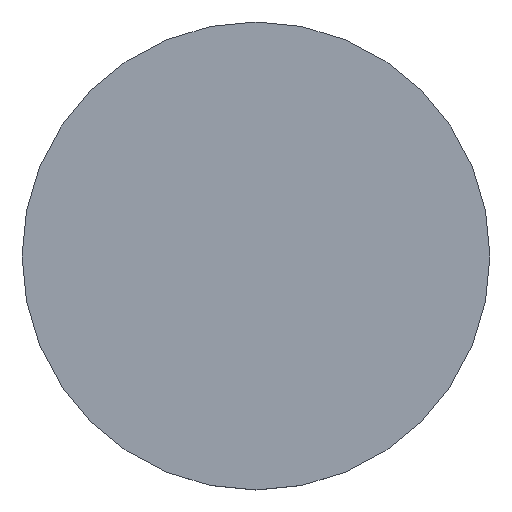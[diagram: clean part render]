
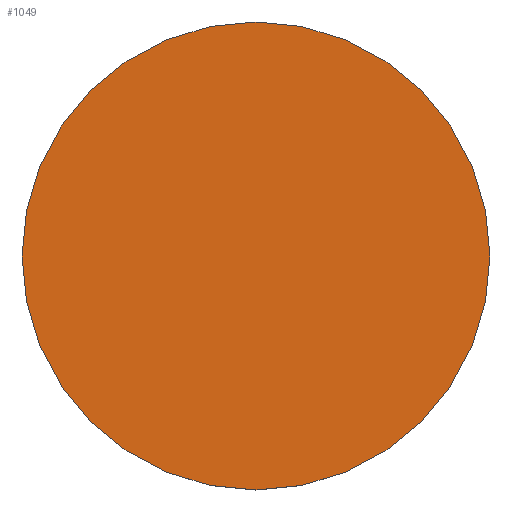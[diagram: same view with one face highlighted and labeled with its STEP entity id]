
A CAD part, top view. The second image highlights one B-rep face of the part: STEP entity #1049.
In plain terms, the highlighted planar face has unit normal (0, 0, 1).
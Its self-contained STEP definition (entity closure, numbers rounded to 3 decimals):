
#24 = VERTEX_POINT('',#25);
#25 = CARTESIAN_POINT('',(1.,0.,0.035));
#31 = EDGE_CURVE('',#24,#32,#34,.T.);
#32 = VERTEX_POINT('',#33);
#33 = CARTESIAN_POINT('',(0.981,0.195,0.035));
#34 = LINE('',#35,#36);
#35 = CARTESIAN_POINT('',(1.,0.,0.035));
#36 = VECTOR('',#37,1.);
#37 = DIRECTION('',(-0.098,0.995,0.));
#62 = EDGE_CURVE('',#32,#63,#65,.T.);
#63 = VERTEX_POINT('',#64);
#64 = CARTESIAN_POINT('',(0.924,0.383,0.035));
#65 = LINE('',#66,#67);
#66 = CARTESIAN_POINT('',(0.981,0.195,0.035));
#67 = VECTOR('',#68,1.);
#68 = DIRECTION('',(-0.29,0.957,0.));
#93 = EDGE_CURVE('',#63,#94,#96,.T.);
#94 = VERTEX_POINT('',#95);
#95 = CARTESIAN_POINT('',(0.831,0.556,0.035));
#96 = LINE('',#97,#98);
#97 = CARTESIAN_POINT('',(0.924,0.383,0.035));
#98 = VECTOR('',#99,1.);
#99 = DIRECTION('',(-0.471,0.882,0.));
#124 = EDGE_CURVE('',#94,#125,#127,.T.);
#125 = VERTEX_POINT('',#126);
#126 = CARTESIAN_POINT('',(0.707,0.707,0.035));
#127 = LINE('',#128,#129);
#128 = CARTESIAN_POINT('',(0.831,0.556,0.035));
#129 = VECTOR('',#130,1.);
#130 = DIRECTION('',(-0.634,0.773,0.));
#155 = EDGE_CURVE('',#125,#156,#158,.T.);
#156 = VERTEX_POINT('',#157);
#157 = CARTESIAN_POINT('',(0.556,0.831,0.035));
#158 = LINE('',#159,#160);
#159 = CARTESIAN_POINT('',(0.707,0.707,0.035));
#160 = VECTOR('',#161,1.);
#161 = DIRECTION('',(-0.773,0.634,0.));
#186 = EDGE_CURVE('',#156,#187,#189,.T.);
#187 = VERTEX_POINT('',#188);
#188 = CARTESIAN_POINT('',(0.383,0.924,0.035));
#189 = LINE('',#190,#191);
#190 = CARTESIAN_POINT('',(0.556,0.831,0.035));
#191 = VECTOR('',#192,1.);
#192 = DIRECTION('',(-0.882,0.471,0.));
#217 = EDGE_CURVE('',#187,#218,#220,.T.);
#218 = VERTEX_POINT('',#219);
#219 = CARTESIAN_POINT('',(0.195,0.981,0.035));
#220 = LINE('',#221,#222);
#221 = CARTESIAN_POINT('',(0.383,0.924,0.035));
#222 = VECTOR('',#223,1.);
#223 = DIRECTION('',(-0.957,0.29,0.));
#248 = EDGE_CURVE('',#218,#249,#251,.T.);
#249 = VERTEX_POINT('',#250);
#250 = CARTESIAN_POINT('',(0.,1.,0.035));
#251 = LINE('',#252,#253);
#252 = CARTESIAN_POINT('',(0.195,0.981,0.035));
#253 = VECTOR('',#254,1.);
#254 = DIRECTION('',(-0.995,0.098,0.));
#279 = EDGE_CURVE('',#249,#280,#282,.T.);
#280 = VERTEX_POINT('',#281);
#281 = CARTESIAN_POINT('',(-0.195,0.981,0.035));
#282 = LINE('',#283,#284);
#283 = CARTESIAN_POINT('',(0.,1.,0.035));
#284 = VECTOR('',#285,1.);
#285 = DIRECTION('',(-0.995,-0.098,0.));
#310 = EDGE_CURVE('',#280,#311,#313,.T.);
#311 = VERTEX_POINT('',#312);
#312 = CARTESIAN_POINT('',(-0.383,0.924,0.035));
#313 = LINE('',#314,#315);
#314 = CARTESIAN_POINT('',(-0.195,0.981,0.035));
#315 = VECTOR('',#316,1.);
#316 = DIRECTION('',(-0.957,-0.29,0.));
#341 = EDGE_CURVE('',#311,#342,#344,.T.);
#342 = VERTEX_POINT('',#343);
#343 = CARTESIAN_POINT('',(-0.556,0.831,0.035));
#344 = LINE('',#345,#346);
#345 = CARTESIAN_POINT('',(-0.383,0.924,0.035));
#346 = VECTOR('',#347,1.);
#347 = DIRECTION('',(-0.882,-0.471,0.));
#372 = EDGE_CURVE('',#342,#373,#375,.T.);
#373 = VERTEX_POINT('',#374);
#374 = CARTESIAN_POINT('',(-0.707,0.707,0.035));
#375 = LINE('',#376,#377);
#376 = CARTESIAN_POINT('',(-0.556,0.831,0.035));
#377 = VECTOR('',#378,1.);
#378 = DIRECTION('',(-0.773,-0.634,0.));
#403 = EDGE_CURVE('',#373,#404,#406,.T.);
#404 = VERTEX_POINT('',#405);
#405 = CARTESIAN_POINT('',(-0.831,0.556,0.035));
#406 = LINE('',#407,#408);
#407 = CARTESIAN_POINT('',(-0.707,0.707,0.035));
#408 = VECTOR('',#409,1.);
#409 = DIRECTION('',(-0.634,-0.773,0.));
#434 = EDGE_CURVE('',#404,#435,#437,.T.);
#435 = VERTEX_POINT('',#436);
#436 = CARTESIAN_POINT('',(-0.924,0.383,0.035));
#437 = LINE('',#438,#439);
#438 = CARTESIAN_POINT('',(-0.831,0.556,0.035));
#439 = VECTOR('',#440,1.);
#440 = DIRECTION('',(-0.471,-0.882,0.));
#465 = EDGE_CURVE('',#435,#466,#468,.T.);
#466 = VERTEX_POINT('',#467);
#467 = CARTESIAN_POINT('',(-0.981,0.195,0.035));
#468 = LINE('',#469,#470);
#469 = CARTESIAN_POINT('',(-0.924,0.383,0.035));
#470 = VECTOR('',#471,1.);
#471 = DIRECTION('',(-0.29,-0.957,0.));
#496 = EDGE_CURVE('',#466,#497,#499,.T.);
#497 = VERTEX_POINT('',#498);
#498 = CARTESIAN_POINT('',(-1.,0.,0.035));
#499 = LINE('',#500,#501);
#500 = CARTESIAN_POINT('',(-0.981,0.195,0.035));
#501 = VECTOR('',#502,1.);
#502 = DIRECTION('',(-0.098,-0.995,0.));
#527 = EDGE_CURVE('',#497,#528,#530,.T.);
#528 = VERTEX_POINT('',#529);
#529 = CARTESIAN_POINT('',(-0.981,-0.195,0.035));
#530 = LINE('',#531,#532);
#531 = CARTESIAN_POINT('',(-1.,0.,0.035));
#532 = VECTOR('',#533,1.);
#533 = DIRECTION('',(0.098,-0.995,0.));
#558 = EDGE_CURVE('',#528,#559,#561,.T.);
#559 = VERTEX_POINT('',#560);
#560 = CARTESIAN_POINT('',(-0.924,-0.383,0.035));
#561 = LINE('',#562,#563);
#562 = CARTESIAN_POINT('',(-0.981,-0.195,0.035));
#563 = VECTOR('',#564,1.);
#564 = DIRECTION('',(0.29,-0.957,0.));
#589 = EDGE_CURVE('',#559,#590,#592,.T.);
#590 = VERTEX_POINT('',#591);
#591 = CARTESIAN_POINT('',(-0.831,-0.556,0.035));
#592 = LINE('',#593,#594);
#593 = CARTESIAN_POINT('',(-0.924,-0.383,0.035));
#594 = VECTOR('',#595,1.);
#595 = DIRECTION('',(0.471,-0.882,0.));
#620 = EDGE_CURVE('',#590,#621,#623,.T.);
#621 = VERTEX_POINT('',#622);
#622 = CARTESIAN_POINT('',(-0.707,-0.707,0.035));
#623 = LINE('',#624,#625);
#624 = CARTESIAN_POINT('',(-0.831,-0.556,0.035));
#625 = VECTOR('',#626,1.);
#626 = DIRECTION('',(0.634,-0.773,0.));
#651 = EDGE_CURVE('',#621,#652,#654,.T.);
#652 = VERTEX_POINT('',#653);
#653 = CARTESIAN_POINT('',(-0.556,-0.831,0.035));
#654 = LINE('',#655,#656);
#655 = CARTESIAN_POINT('',(-0.707,-0.707,0.035));
#656 = VECTOR('',#657,1.);
#657 = DIRECTION('',(0.773,-0.634,0.));
#682 = EDGE_CURVE('',#652,#683,#685,.T.);
#683 = VERTEX_POINT('',#684);
#684 = CARTESIAN_POINT('',(-0.383,-0.924,0.035));
#685 = LINE('',#686,#687);
#686 = CARTESIAN_POINT('',(-0.556,-0.831,0.035));
#687 = VECTOR('',#688,1.);
#688 = DIRECTION('',(0.882,-0.471,0.));
#713 = EDGE_CURVE('',#683,#714,#716,.T.);
#714 = VERTEX_POINT('',#715);
#715 = CARTESIAN_POINT('',(-0.195,-0.981,0.035));
#716 = LINE('',#717,#718);
#717 = CARTESIAN_POINT('',(-0.383,-0.924,0.035));
#718 = VECTOR('',#719,1.);
#719 = DIRECTION('',(0.957,-0.29,0.));
#744 = EDGE_CURVE('',#714,#745,#747,.T.);
#745 = VERTEX_POINT('',#746);
#746 = CARTESIAN_POINT('',(0.,-1.,0.035));
#747 = LINE('',#748,#749);
#748 = CARTESIAN_POINT('',(-0.195,-0.981,0.035));
#749 = VECTOR('',#750,1.);
#750 = DIRECTION('',(0.995,-0.098,0.));
#775 = EDGE_CURVE('',#745,#776,#778,.T.);
#776 = VERTEX_POINT('',#777);
#777 = CARTESIAN_POINT('',(0.195,-0.981,0.035));
#778 = LINE('',#779,#780);
#779 = CARTESIAN_POINT('',(0.,-1.,0.035));
#780 = VECTOR('',#781,1.);
#781 = DIRECTION('',(0.995,0.098,0.));
#806 = EDGE_CURVE('',#776,#807,#809,.T.);
#807 = VERTEX_POINT('',#808);
#808 = CARTESIAN_POINT('',(0.383,-0.924,0.035));
#809 = LINE('',#810,#811);
#810 = CARTESIAN_POINT('',(0.195,-0.981,0.035));
#811 = VECTOR('',#812,1.);
#812 = DIRECTION('',(0.957,0.29,0.));
#837 = EDGE_CURVE('',#807,#838,#840,.T.);
#838 = VERTEX_POINT('',#839);
#839 = CARTESIAN_POINT('',(0.556,-0.831,0.035));
#840 = LINE('',#841,#842);
#841 = CARTESIAN_POINT('',(0.383,-0.924,0.035));
#842 = VECTOR('',#843,1.);
#843 = DIRECTION('',(0.882,0.471,0.));
#868 = EDGE_CURVE('',#838,#869,#871,.T.);
#869 = VERTEX_POINT('',#870);
#870 = CARTESIAN_POINT('',(0.707,-0.707,0.035));
#871 = LINE('',#872,#873);
#872 = CARTESIAN_POINT('',(0.556,-0.831,0.035));
#873 = VECTOR('',#874,1.);
#874 = DIRECTION('',(0.773,0.634,0.));
#899 = EDGE_CURVE('',#869,#900,#902,.T.);
#900 = VERTEX_POINT('',#901);
#901 = CARTESIAN_POINT('',(0.831,-0.556,0.035));
#902 = LINE('',#903,#904);
#903 = CARTESIAN_POINT('',(0.707,-0.707,0.035));
#904 = VECTOR('',#905,1.);
#905 = DIRECTION('',(0.634,0.773,0.));
#930 = EDGE_CURVE('',#900,#931,#933,.T.);
#931 = VERTEX_POINT('',#932);
#932 = CARTESIAN_POINT('',(0.924,-0.383,0.035));
#933 = LINE('',#934,#935);
#934 = CARTESIAN_POINT('',(0.831,-0.556,0.035));
#935 = VECTOR('',#936,1.);
#936 = DIRECTION('',(0.471,0.882,0.));
#961 = EDGE_CURVE('',#931,#962,#964,.T.);
#962 = VERTEX_POINT('',#963);
#963 = CARTESIAN_POINT('',(0.981,-0.195,0.035));
#964 = LINE('',#965,#966);
#965 = CARTESIAN_POINT('',(0.924,-0.383,0.035));
#966 = VECTOR('',#967,1.);
#967 = DIRECTION('',(0.29,0.957,0.));
#992 = EDGE_CURVE('',#962,#24,#993,.T.);
#993 = LINE('',#994,#995);
#994 = CARTESIAN_POINT('',(0.981,-0.195,0.035));
#995 = VECTOR('',#996,1.);
#996 = DIRECTION('',(0.098,0.995,0.));
#1049 = ADVANCED_FACE('',(#1050),#1084,.T.);
#1050 = FACE_BOUND('',#1051,.T.);
#1051 = EDGE_LOOP('',(#1052,#1053,#1054,#1055,#1056,#1057,#1058,#1059,
    #1060,#1061,#1062,#1063,#1064,#1065,#1066,#1067,#1068,#1069,#1070,
    #1071,#1072,#1073,#1074,#1075,#1076,#1077,#1078,#1079,#1080,#1081,
    #1082,#1083));
#1052 = ORIENTED_EDGE('',*,*,#31,.T.);
#1053 = ORIENTED_EDGE('',*,*,#62,.T.);
#1054 = ORIENTED_EDGE('',*,*,#93,.T.);
#1055 = ORIENTED_EDGE('',*,*,#124,.T.);
#1056 = ORIENTED_EDGE('',*,*,#155,.T.);
#1057 = ORIENTED_EDGE('',*,*,#186,.T.);
#1058 = ORIENTED_EDGE('',*,*,#217,.T.);
#1059 = ORIENTED_EDGE('',*,*,#248,.T.);
#1060 = ORIENTED_EDGE('',*,*,#279,.T.);
#1061 = ORIENTED_EDGE('',*,*,#310,.T.);
#1062 = ORIENTED_EDGE('',*,*,#341,.T.);
#1063 = ORIENTED_EDGE('',*,*,#372,.T.);
#1064 = ORIENTED_EDGE('',*,*,#403,.T.);
#1065 = ORIENTED_EDGE('',*,*,#434,.T.);
#1066 = ORIENTED_EDGE('',*,*,#465,.T.);
#1067 = ORIENTED_EDGE('',*,*,#496,.T.);
#1068 = ORIENTED_EDGE('',*,*,#527,.T.);
#1069 = ORIENTED_EDGE('',*,*,#558,.T.);
#1070 = ORIENTED_EDGE('',*,*,#589,.T.);
#1071 = ORIENTED_EDGE('',*,*,#620,.T.);
#1072 = ORIENTED_EDGE('',*,*,#651,.T.);
#1073 = ORIENTED_EDGE('',*,*,#682,.T.);
#1074 = ORIENTED_EDGE('',*,*,#713,.T.);
#1075 = ORIENTED_EDGE('',*,*,#744,.T.);
#1076 = ORIENTED_EDGE('',*,*,#775,.T.);
#1077 = ORIENTED_EDGE('',*,*,#806,.T.);
#1078 = ORIENTED_EDGE('',*,*,#837,.T.);
#1079 = ORIENTED_EDGE('',*,*,#868,.T.);
#1080 = ORIENTED_EDGE('',*,*,#899,.T.);
#1081 = ORIENTED_EDGE('',*,*,#930,.T.);
#1082 = ORIENTED_EDGE('',*,*,#961,.T.);
#1083 = ORIENTED_EDGE('',*,*,#992,.T.);
#1084 = PLANE('',#1085);
#1085 = AXIS2_PLACEMENT_3D('',#1086,#1087,#1088);
#1086 = CARTESIAN_POINT('',(0.,0.,
    0.035));
#1087 = DIRECTION('',(0.,0.,1.));
#1088 = DIRECTION('',(1.,0.,-0.));
